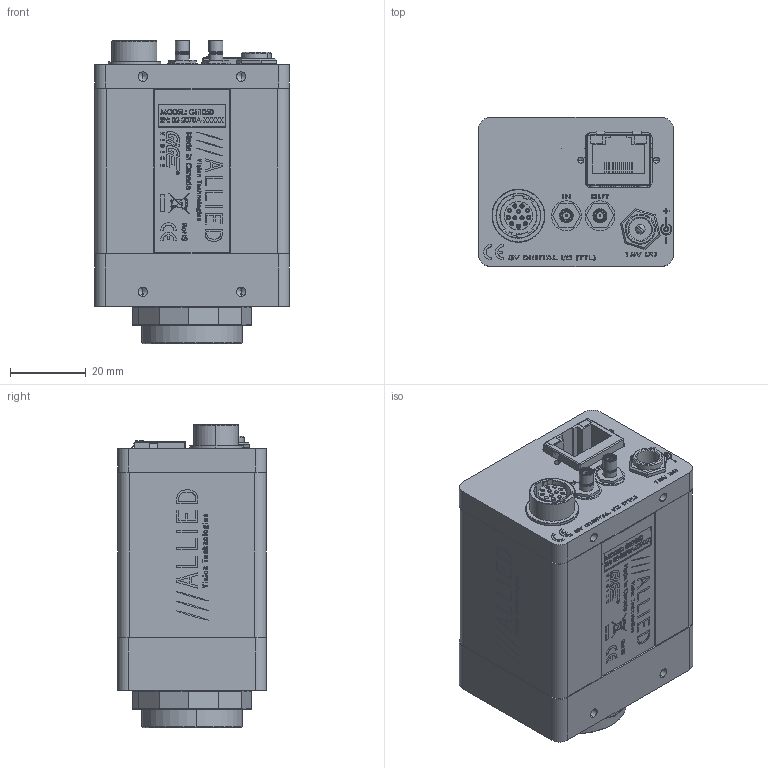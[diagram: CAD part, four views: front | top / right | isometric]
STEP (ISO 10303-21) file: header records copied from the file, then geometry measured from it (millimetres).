
FILE_DESCRIPTION (( 'STEP AP214' ), '1' );
FILE_NAME ('GE1050.STEP', '2013-07-31T21:15:04', ( '' ), ( '' ), 'SwSTEP 2.0', 'SolidWorks 2013', '' );
FILE_SCHEMA (( 'AUTOMOTIVE_DESIGN' ));
Length unit declared in the file: millimetre
Products named in the file (34): 110085A-GE1050 FRONT PLATE; 110033B-C GE BACK PLATE; 110031A-B EC-CCD LOCKING RING; 260010-HIROSE HR10A-10R-12SB WASHER; 110003AC-CV CMOUNT RING; 140034-SWITCHCRAFT P10149 WITH WIRE; 140007-screw socket head cap #4-40x2; 270006-JUMPER WIRE 18MM LONG; 110036B GE COVER EXTRUDED SHORT WITH LOGO_Finished; 140034-SWITCHCRAFT P10149; 140008-washer spring lock #4; 100000AA-CV SMB GROUNDING ASSEMBLY; 270006-JUMPER WIRE MODIFIED; GE1050; 140001-AMPHENOL 903-10409-1; 140000-AMPHENOL 903-10408-1; 260009-AMPHENOL 903-406J-51R; 740053A-A GE1050M LABEL PRINT; 260010-HIROSE HR10A-10R-12SB NUT; 740031B-GE SERIES LABEL; 260014-SWITCHCRAFT PC712A NUT; 100137A - GE CAMERA BACK ASSEMBLY - for GE KODAK 1M2M; 140002-KEYSTONE 349; 200031B-A GE INTERFACE PCB ASSY; 100102A-GE1050M FRONT ASSY; 260029 BELFUSE 0826-1C1T-23; 220135-KODAK KAI-01050-ABA; 140015-screw pan head phillips 4-40 x 0.1875; KODAK KAI-01050 WINDOW; KODAK KAI-01050 BODY; 100051B - GE BACKPLATE ASSY; 110053AA-GE KODAK 2M CCD DUST SHIELD GASKET; 260014-SWITCHCRAFT PC712A; 260010-HIROSE HR10A-10R-12SB
Assembly tree (47 placements, depth 5):
  GE1050
    140008-washer spring lock #4  x4
    110036B GE COVER EXTRUDED SHORT WITH LOGO_Finished
    140007-screw socket head cap #4-40x2  x4
    100102A-GE1050M FRONT ASSY
      110003AC-CV CMOUNT RING
      110031A-B EC-CCD LOCKING RING
      110085A-GE1050 FRONT PLATE
      110053AA-GE KODAK 2M CCD DUST SHIELD GASKET
      220135-KODAK KAI-01050-ABA
        KODAK KAI-01050 BODY
        KODAK KAI-01050 WINDOW
    100137A - GE CAMERA BACK ASSEMBLY - for GE KODAK 1M2M
      100051B - GE BACKPLATE ASSY
        140002-KEYSTONE 349  x4
        260014-SWITCHCRAFT PC712A NUT
        260010-HIROSE HR10A-10R-12SB NUT
        260009-AMPHENOL 903-406J-51R  x2
        140000-AMPHENOL 903-10408-1  x2
        100000AA-CV SMB GROUNDING ASSEMBLY  x2
          140001-AMPHENOL 903-10409-1
          270006-JUMPER WIRE MODIFIED
        140034-SWITCHCRAFT P10149 WITH WIRE
          140034-SWITCHCRAFT P10149
          270006-JUMPER WIRE 18MM LONG
        260010-HIROSE HR10A-10R-12SB WASHER
        110033B-C GE BACK PLATE
        260010-HIROSE HR10A-10R-12SB
        260014-SWITCHCRAFT PC712A
      140015-screw pan head phillips 4-40 x 0.1875
      200031B-A GE INTERFACE PCB ASSY
        260029 BELFUSE 0826-1C1T-23
      140008-washer spring lock #4  x2
    740031B-GE SERIES LABEL
    740053A-A GE1050M LABEL PRINT
Bounding box: 51.56 x 39.37 x 80.29 mm (x, y, z)
Volume: 48717.1 mm3; surface area: 67958.5 mm2
Topology: 72 solids, 72 shells, 3911 faces, 9805 edges, 6395 vertices
Faces by surface type: plane 2053, bspline 887, cylinder 725, cone 246
Entity records: 183755 total; most frequent: CARTESIAN_POINT 57773, ORIENTED_EDGE 18464, DIRECTION 14802, EDGE_CURVE 9232, VERTEX_POINT 6053, VECTOR 5990, LINE 5990, AXIS2_PLACEMENT_3D 4406
